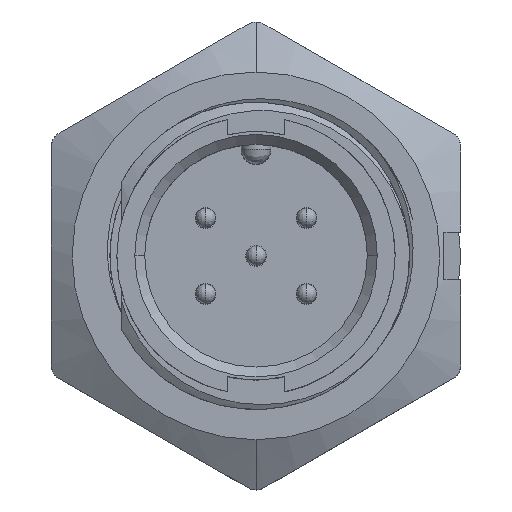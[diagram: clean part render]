
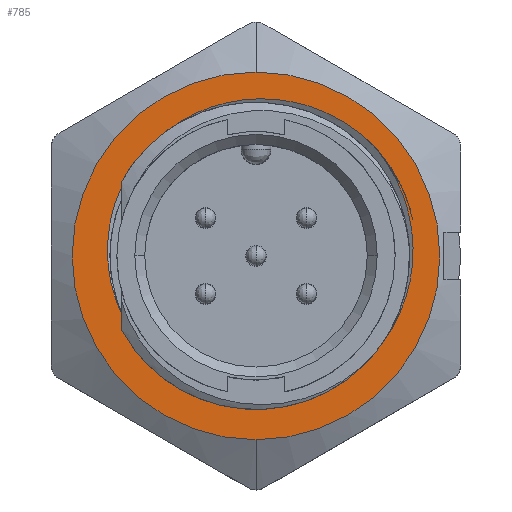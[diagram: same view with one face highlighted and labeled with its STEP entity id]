
A CAD part, top view. The second image highlights one B-rep face of the part: STEP entity #785.
In plain terms, the highlighted planar face has unit normal (0, 0, 1).
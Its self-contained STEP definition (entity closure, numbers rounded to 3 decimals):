
#126 = CARTESIAN_POINT ( 'NONE',  ( -3.75, -6.322, -6.1 ) ) ;
#343 = FACE_OUTER_BOUND ( 'NONE', #6388, .T. ) ;
#439 = AXIS2_PLACEMENT_3D ( 'NONE', #10650, #12705, #9438 ) ;
#539 = CARTESIAN_POINT ( 'NONE',  ( -2.967, -6.725, -6.1 ) ) ;
#769 = CARTESIAN_POINT ( 'NONE',  ( -3.134, 7.185, -6.1 ) ) ;
#785 = ADVANCED_FACE ( 'NONE', ( #2912, #343 ), #6202, .T. ) ;
#1153 = CARTESIAN_POINT ( 'NONE',  ( -6.682, -3.063, -6.1 ) ) ;
#1156 = EDGE_CURVE ( 'NONE', #13249, #10398, #10921, .T. ) ;
#1721 = ORIENTED_EDGE ( 'NONE', *, *, #4712, .T. ) ;
#1952 = ORIENTED_EDGE ( 'NONE', *, *, #7807, .F. ) ;
#1955 = DIRECTION ( 'NONE',  ( -1., 0., 0. ) ) ;
#2108 = CARTESIAN_POINT ( 'NONE',  ( -4.029, -6.148, -6.1 ) ) ;
#2410 = CARTESIAN_POINT ( 'NONE',  ( 0., -9.25, -6.1 ) ) ;
#2498 = VERTEX_POINT ( 'NONE', #3004 ) ;
#2611 = CARTESIAN_POINT ( 'NONE',  ( 6.588, 4.749, -6.1 ) ) ;
#2827 = CARTESIAN_POINT ( 'NONE',  ( 6.808, -3.822, -6.1 ) ) ;
#2912 = FACE_BOUND ( 'NONE', #10067, .T. ) ;
#3004 = CARTESIAN_POINT ( 'NONE',  ( -6.682, -3.063, -6.1 ) ) ;
#3050 = CARTESIAN_POINT ( 'NONE',  ( -6.791, 3.521, -6.1 ) ) ;
#3274 = CARTESIAN_POINT ( 'NONE',  ( -5.289, 5.656, -6.1 ) ) ;
#3364 = CARTESIAN_POINT ( 'NONE',  ( -3.169, -6.635, -6.1 ) ) ;
#3556 = B_SPLINE_CURVE_WITH_KNOTS ( 'NONE', 3,
 ( #4543, #10108, #12364, #9090, #4622, #11254 ),
 .UNSPECIFIED., .F., .F.,
 ( 4, 2, 4 ),
 ( 0., 0.5, 1. ),
 .UNSPECIFIED. ) ;
#3674 = DIRECTION ( 'NONE',  ( -1., 0., 0. ) ) ;
#3779 = CARTESIAN_POINT ( 'NONE',  ( -2.216, -7.089, -6.1 ) ) ;
#3926 = CARTESIAN_POINT ( 'NONE',  ( 5.732, -5.207, -6.1 ) ) ;
#3929 = DIRECTION ( 'NONE',  ( 0., 0., -1. ) ) ;
#3935 = AXIS2_PLACEMENT_3D ( 'NONE', #12875, #11906, #1955 ) ;
#3976 = CARTESIAN_POINT ( 'NONE',  ( 0., 9.25, -6.1 ) ) ;
#4099 = EDGE_CURVE ( 'NONE', #4365, #10398, #3556, .T. ) ;
#4289 = CARTESIAN_POINT ( 'NONE',  ( -3.918, 6.752, -6.1 ) ) ;
#4365 = VERTEX_POINT ( 'NONE', #4831 ) ;
#4543 = CARTESIAN_POINT ( 'NONE',  ( 5.365, 6.07, -6.1 ) ) ;
#4591 = CIRCLE ( 'NONE', #10649, 9.25 ) ;
#4605 = CARTESIAN_POINT ( 'NONE',  ( -5.548, -4.83, -6.1 ) ) ;
#4622 = CARTESIAN_POINT ( 'NONE',  ( 5.899, 5.559, -6.1 ) ) ;
#4712 = EDGE_CURVE ( 'NONE', #13249, #2498, #12607, .T. ) ;
#4831 = CARTESIAN_POINT ( 'NONE',  ( 5.365, 6.07, -6.1 ) ) ;
#4865 = VERTEX_POINT ( 'NONE', #2410 ) ;
#4945 = CARTESIAN_POINT ( 'NONE',  ( 1.145, -7.467, -6.1 ) ) ;
#5091 = CARTESIAN_POINT ( 'NONE',  ( 7.228, -3.031, -6.1 ) ) ;
#5174 = CARTESIAN_POINT ( 'NONE',  ( -1.455, 7.766, -6.1 ) ) ;
#5465 = CARTESIAN_POINT ( 'NONE',  ( -5.895, -4.391, -6.1 ) ) ;
#5595 = CARTESIAN_POINT ( 'NONE',  ( 5.992, 5.451, -6.1 ) ) ;
#5989 = B_SPLINE_CURVE_WITH_KNOTS ( 'NONE', 3,
 ( #6485, #11883, #13272, #11000, #13054, #8614, #5174, #769, #4289, #3274, #9778, #3050, #6409, #14228, #7733, #12102, #6343, #8542 ),
 .UNSPECIFIED., .F., .F.,
 ( 4, 2, 2, 2, 2, 2, 2, 2, 4 ),
 ( 0., 0.125, 0.25, 0.375, 0.5, 0.625, 0.75, 0.875, 1. ),
 .UNSPECIFIED. ) ;
#6202 = PLANE ( 'NONE',  #439 ) ;
#6343 = CARTESIAN_POINT ( 'NONE',  ( -7.058, -2.317, -6.1 ) ) ;
#6388 = EDGE_LOOP ( 'NONE', ( #1952, #8664 ) ) ;
#6409 = CARTESIAN_POINT ( 'NONE',  ( -7.119, 2.711, -6.1 ) ) ;
#6485 = CARTESIAN_POINT ( 'NONE',  ( 5.365, 6.07, -6.1 ) ) ;
#6583 = CARTESIAN_POINT ( 'NONE',  ( -5.32, -5.077, -6.1 ) ) ;
#7000 = CARTESIAN_POINT ( 'NONE',  ( 3.618, -6.74, -6.1 ) ) ;
#7143 = CARTESIAN_POINT ( 'NONE',  ( 7.786, -1.344, -6.1 ) ) ;
#7216 = CARTESIAN_POINT ( 'NONE',  ( 5.992, 5.451, -6.1 ) ) ;
#7733 = CARTESIAN_POINT ( 'NONE',  ( -7.521, 0.176, -6.1 ) ) ;
#7807 = EDGE_CURVE ( 'NONE', #4865, #11151, #4591, .T. ) ;
#7830 = CARTESIAN_POINT ( 'NONE',  ( -5.963, -4.299, -6.1 ) ) ;
#8014 = CARTESIAN_POINT ( 'NONE',  ( -2.967, -6.725, -6.1 ) ) ;
#8239 = CARTESIAN_POINT ( 'NONE',  ( 2.813, -7.078, -6.1 ) ) ;
#8310 = CARTESIAN_POINT ( 'NONE',  ( 0.283, -7.518, -6.1 ) ) ;
#8374 = CIRCLE ( 'NONE', #3935, 9.25 ) ;
#8542 = CARTESIAN_POINT ( 'NONE',  ( -6.682, -3.063, -6.1 ) ) ;
#8614 = CARTESIAN_POINT ( 'NONE',  ( -0.561, 7.913, -6.1 ) ) ;
#8664 = ORIENTED_EDGE ( 'NONE', *, *, #12048, .F. ) ;
#8858 = CARTESIAN_POINT ( 'NONE',  ( -4.494, -5.834, -6.1 ) ) ;
#9075 = CARTESIAN_POINT ( 'NONE',  ( -5.759, -4.569, -6.1 ) ) ;
#9090 = CARTESIAN_POINT ( 'NONE',  ( 5.797, 5.667, -6.1 ) ) ;
#9290 = ORIENTED_EDGE ( 'NONE', *, *, #14354, .F. ) ;
#9438 = DIRECTION ( 'NONE',  ( 1., 0., 0. ) ) ;
#9566 = CARTESIAN_POINT ( 'NONE',  ( -1.397, -7.328, -6.1 ) ) ;
#9778 = CARTESIAN_POINT ( 'NONE',  ( -5.876, 4.994, -6.1 ) ) ;
#9941 = CARTESIAN_POINT ( 'NONE',  ( -3.938, -6.207, -6.1 ) ) ;
#10067 = EDGE_LOOP ( 'NONE', ( #1721, #9290, #13603, #10303 ) ) ;
#10108 = CARTESIAN_POINT ( 'NONE',  ( 5.468, 5.983, -6.1 ) ) ;
#10232 = CARTESIAN_POINT ( 'NONE',  ( -4.84, -5.549, -6.1 ) ) ;
#10303 = ORIENTED_EDGE ( 'NONE', *, *, #1156, .F. ) ;
#10398 = VERTEX_POINT ( 'NONE', #5595 ) ;
#10428 = CARTESIAN_POINT ( 'NONE',  ( 7.706, 2.251, -6.1 ) ) ;
#10632 = CARTESIAN_POINT ( 'NONE',  ( 7.921, -0.448, -6.1 ) ) ;
#10649 = AXIS2_PLACEMENT_3D ( 'NONE', #13940, #3929, #3674 ) ;
#10650 = CARTESIAN_POINT ( 'NONE',  ( 0., 0., -6.1 ) ) ;
#10921 = B_SPLINE_CURVE_WITH_KNOTS ( 'NONE', 3,
 ( #539, #3779, #9566, #8310, #4945, #8239, #7000, #13936, #3926, #2827, #5091, #7143, #10632, #11726, #10428, #12761, #2611, #7216 ),
 .UNSPECIFIED., .F., .F.,
 ( 4, 2, 2, 2, 2, 2, 2, 2, 4 ),
 ( 0., 0.125, 0.25, 0.375, 0.5, 0.625, 0.75, 0.875, 1. ),
 .UNSPECIFIED. ) ;
#11000 = CARTESIAN_POINT ( 'NONE',  ( 2.14, 7.737, -6.1 ) ) ;
#11151 = VERTEX_POINT ( 'NONE', #3976 ) ;
#11254 = CARTESIAN_POINT ( 'NONE',  ( 5.992, 5.451, -6.1 ) ) ;
#11310 = CARTESIAN_POINT ( 'NONE',  ( -3.465, -6.489, -6.1 ) ) ;
#11726 = CARTESIAN_POINT ( 'NONE',  ( 7.879, 1.35, -6.1 ) ) ;
#11883 = CARTESIAN_POINT ( 'NONE',  ( 4.655, 6.655, -6.1 ) ) ;
#11906 = DIRECTION ( 'NONE',  ( 0., 0., -1. ) ) ;
#12048 = EDGE_CURVE ( 'NONE', #11151, #4865, #8374, .T. ) ;
#12102 = CARTESIAN_POINT ( 'NONE',  ( -7.308, -1.502, -6.1 ) ) ;
#12364 = CARTESIAN_POINT ( 'NONE',  ( 5.576, 5.885, -6.1 ) ) ;
#12607 = B_SPLINE_CURVE_WITH_KNOTS ( 'NONE', 3,
 ( #14472, #3364, #11310, #126, #9941, #2108, #8858, #10232, #6583, #4605, #9075, #5465, #7830, #13296, #14393, #1153 ),
 .UNSPECIFIED., .F., .F.,
 ( 4, 1, 2, 2, 2, 1, 2, 2, 4 ),
 ( 0., 0.125, 0.188, 0.25, 0.5, 0.625, 0.688, 0.75, 1. ),
 .UNSPECIFIED. ) ;
#12705 = DIRECTION ( 'NONE',  ( 0., 0., 1. ) ) ;
#12761 = CARTESIAN_POINT ( 'NONE',  ( 7.06, 3.95, -6.1 ) ) ;
#12875 = CARTESIAN_POINT ( 'NONE',  ( 0., 0., -6.1 ) ) ;
#13054 = CARTESIAN_POINT ( 'NONE',  ( 1.237, 7.899, -6.1 ) ) ;
#13249 = VERTEX_POINT ( 'NONE', #8014 ) ;
#13272 = CARTESIAN_POINT ( 'NONE',  ( 3.849, 7.115, -6.1 ) ) ;
#13296 = CARTESIAN_POINT ( 'NONE',  ( -6.279, -3.846, -6.1 ) ) ;
#13603 = ORIENTED_EDGE ( 'NONE', *, *, #4099, .T. ) ;
#13936 = CARTESIAN_POINT ( 'NONE',  ( 5.077, -5.803, -6.1 ) ) ;
#13940 = CARTESIAN_POINT ( 'NONE',  ( 0., 0., -6.1 ) ) ;
#14228 = CARTESIAN_POINT ( 'NONE',  ( -7.483, 1.038, -6.1 ) ) ;
#14354 = EDGE_CURVE ( 'NONE', #4365, #2498, #5989, .T. ) ;
#14393 = CARTESIAN_POINT ( 'NONE',  ( -6.497, -3.464, -6.1 ) ) ;
#14472 = CARTESIAN_POINT ( 'NONE',  ( -2.967, -6.725, -6.1 ) ) ;
